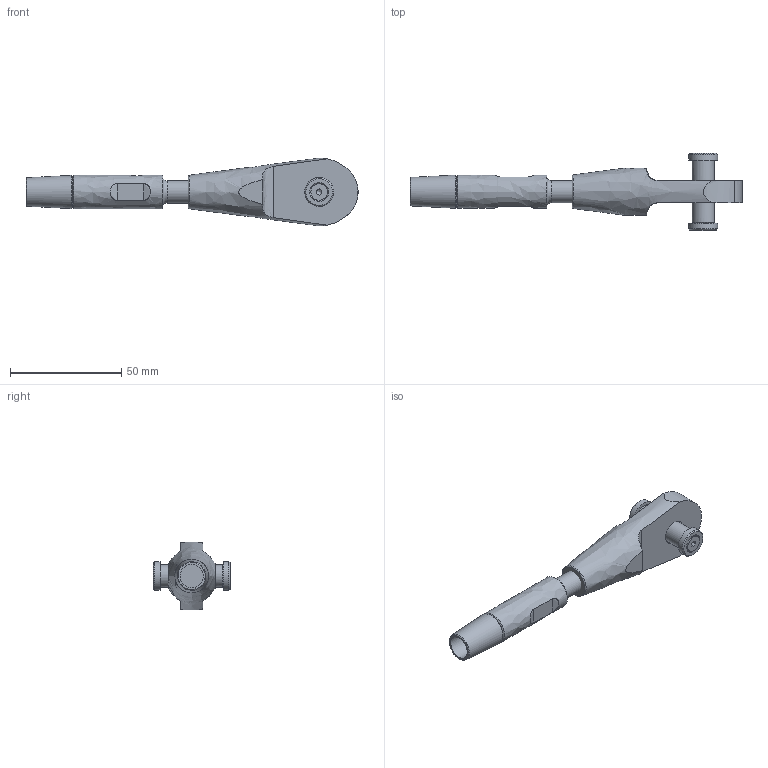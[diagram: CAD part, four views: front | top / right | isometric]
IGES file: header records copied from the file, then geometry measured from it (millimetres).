
Global section: file name: 520-010-OES-ADA; native system: Autodesk Inventor 2020; preprocessor: unknown; author: Administrator; date: 20201007.153150; units: millimetre
Bounding box: 149.48 x 34.78 x 30.54 mm (x, y, z)
Volume: 34666.7 mm3; surface area: 12590.9 mm2
Topology: 6 solids, 6 shells, 63 faces, 152 edges, 106 vertices
Faces by surface type: bspline 63
